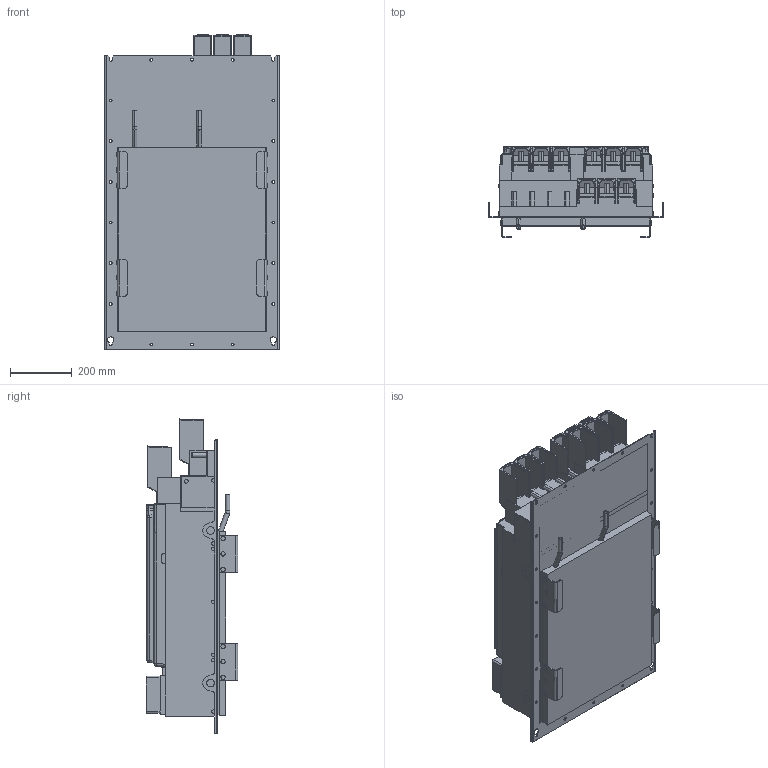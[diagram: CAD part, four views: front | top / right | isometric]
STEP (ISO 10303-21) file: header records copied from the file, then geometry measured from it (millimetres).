
FILE_DESCRIPTION (( 'STEP AP214' ), '1' );
FILE_NAME ('F6-9TW5-P150.STEP', '2022-12-21T10:51:32', ( '' ), ( '' ), 'SwSTEP 2.0', 'SolidWorks 2022', '' );
FILE_SCHEMA (( 'AUTOMOTIVE_DESIGN' ));
Length unit declared in the file: millimetre
Products named in the file (12): Kundenmodell^10049764_000; Kundenmodell^10051076_000_Kundenmodell mit Geberbuchsen; 10051555_000_Kundenmodell ohne BW; Kundenmodell^10059764_000; Kundenmodell^10054881_000; F6-9TW5-P150; 10054881_000_Deckel (Kundenmodell); 10068274_000_Kundenmodell; 10059764_000_Blindabdeckung (Kundenmodell); 10051076_000_Kundenmodell; Kundenmodell^10068274_000; 10049764_000_Kundenmodell
Assembly tree (11 placements, depth 4):
  F6-9TW5-P150
    10051555_000_Kundenmodell ohne BW
      10068274_000_Kundenmodell
        Kundenmodell^10068274_000
    10049764_000_Kundenmodell
      Kundenmodell^10049764_000
    10051076_000_Kundenmodell
      10059764_000_Blindabdeckung (Kundenmodell)
        Kundenmodell^10059764_000
      Kundenmodell^10051076_000_Kundenmodell mit Geberbuchsen
    10054881_000_Deckel (Kundenmodell)
      Kundenmodell^10054881_000
Bounding box: 566 x 296.5 x 1024.88 mm (x, y, z)
Volume: 92579749.5 mm3; surface area: 4181565.8 mm2
Topology: 5 solids, 5 shells, 2683 faces, 6981 edges, 4364 vertices
Faces by surface type: plane 1235, cylinder 897, bspline 258, cone 120, sphere 92, torus 81
Entity records: 90043 total; most frequent: CARTESIAN_POINT 25832, ORIENTED_EDGE 13794, DIRECTION 12717, EDGE_CURVE 6897, VERTEX_POINT 4364, AXIS2_PLACEMENT_3D 4273, LINE 4171, VECTOR 4171
